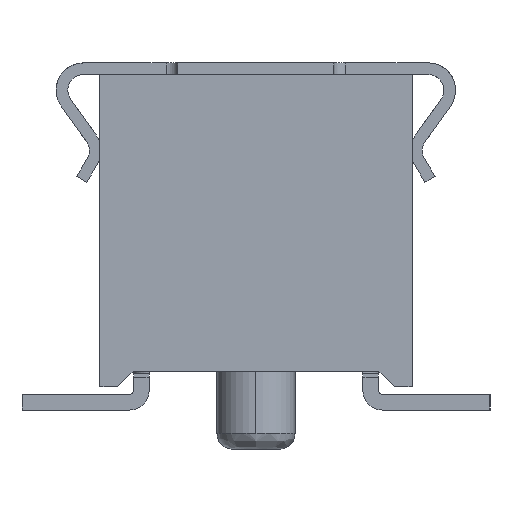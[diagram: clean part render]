
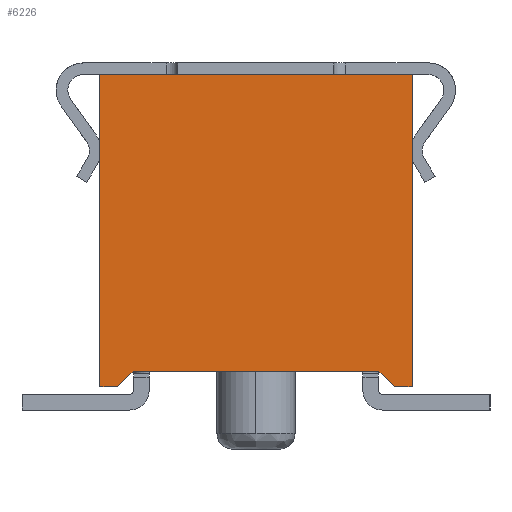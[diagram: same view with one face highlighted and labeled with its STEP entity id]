
A CAD part, left-side view. The second image highlights one B-rep face of the part: STEP entity #6226.
In plain terms, the highlighted planar face has unit normal (-1, 0, 0).
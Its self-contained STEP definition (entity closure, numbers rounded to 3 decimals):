
#12 = EDGE_CURVE ( 'NONE', #3537, #5579, #92, .T. ) ;
#92 = LINE ( 'NONE', #6657, #2454 ) ;
#235 = EDGE_CURVE ( 'NONE', #5579, #5827, #7310, .T. ) ;
#297 = VECTOR ( 'NONE', #6931, 1000. ) ;
#348 = VECTOR ( 'NONE', #8120, 1000. ) ;
#494 = ORIENTED_EDGE ( 'NONE', *, *, #7746, .F. ) ;
#534 = CARTESIAN_POINT ( 'NONE',  ( 0., 0., 0.2 ) ) ;
#714 = LINE ( 'NONE', #5923, #7223 ) ;
#740 = CARTESIAN_POINT ( 'NONE',  ( 0., -1.78, 0. ) ) ;
#920 = CARTESIAN_POINT ( 'NONE',  ( 0., -2., 4. ) ) ;
#1153 = VERTEX_POINT ( 'NONE', #920 ) ;
#1221 = CARTESIAN_POINT ( 'NONE',  ( 0., -1.678, 0.1 ) ) ;
#1392 = ORIENTED_EDGE ( 'NONE', *, *, #6799, .T. ) ;
#1403 = ORIENTED_EDGE ( 'NONE', *, *, #12, .T. ) ;
#1561 = VECTOR ( 'NONE', #3123, 1000. ) ;
#1873 = FACE_OUTER_BOUND ( 'NONE', #3807, .T. ) ;
#1876 = CARTESIAN_POINT ( 'NONE',  ( 0., 1.678, 0.1 ) ) ;
#2237 = ORIENTED_EDGE ( 'NONE', *, *, #3918, .T. ) ;
#2270 = CARTESIAN_POINT ( 'NONE',  ( 0., -1.89, 0. ) ) ;
#2284 = VERTEX_POINT ( 'NONE', #4485 ) ;
#2454 = VECTOR ( 'NONE', #7275, 1000. ) ;
#2599 = VERTEX_POINT ( 'NONE', #6724 ) ;
#2913 = VECTOR ( 'NONE', #6683, 1000. ) ;
#3123 = DIRECTION ( 'NONE',  ( 0., -0.716, -0.698 ) ) ;
#3295 = ORIENTED_EDGE ( 'NONE', *, *, #5369, .T. ) ;
#3303 = DIRECTION ( 'NONE',  ( 0., 0., -1. ) ) ;
#3323 = LINE ( 'NONE', #1221, #1561 ) ;
#3537 = VERTEX_POINT ( 'NONE', #6303 ) ;
#3807 = EDGE_LOOP ( 'NONE', ( #1392, #3295, #2237, #494, #4483, #7505, #1403, #4491 ) ) ;
#3895 = DIRECTION ( 'NONE',  ( 1., 0., 0. ) ) ;
#3918 = EDGE_CURVE ( 'NONE', #5415, #2599, #8046, .T. ) ;
#3956 = CARTESIAN_POINT ( 'NONE',  ( 0., -2., 2. ) ) ;
#4483 = ORIENTED_EDGE ( 'NONE', *, *, #7758, .F. ) ;
#4485 = CARTESIAN_POINT ( 'NONE',  ( 0., -1.575, 0.2 ) ) ;
#4491 = ORIENTED_EDGE ( 'NONE', *, *, #235, .T. ) ;
#4995 = AXIS2_PLACEMENT_3D ( 'NONE', #7083, #3895, #6337 ) ;
#5177 = DIRECTION ( 'NONE',  ( 0., -1., 0. ) ) ;
#5238 = VECTOR ( 'NONE', #3303, 1000. ) ;
#5369 = EDGE_CURVE ( 'NONE', #2284, #5415, #3323, .T. ) ;
#5415 = VERTEX_POINT ( 'NONE', #740 ) ;
#5579 = VERTEX_POINT ( 'NONE', #6577 ) ;
#5608 = CARTESIAN_POINT ( 'NONE',  ( 0., 2., 4. ) ) ;
#5827 = VERTEX_POINT ( 'NONE', #5977 ) ;
#5923 = CARTESIAN_POINT ( 'NONE',  ( 0., 0., 4. ) ) ;
#5977 = CARTESIAN_POINT ( 'NONE',  ( 0., 1.575, 0.2 ) ) ;
#6226 = ADVANCED_FACE ( 'NONE', ( #1873 ), #7638, .F. ) ;
#6303 = CARTESIAN_POINT ( 'NONE',  ( 0., 2., 0. ) ) ;
#6337 = DIRECTION ( 'NONE',  ( 0., 0., -1. ) ) ;
#6577 = CARTESIAN_POINT ( 'NONE',  ( 0., 1.78, 0. ) ) ;
#6657 = CARTESIAN_POINT ( 'NONE',  ( 0., 1.89, 0. ) ) ;
#6683 = DIRECTION ( 'NONE',  ( 0., -1., 0. ) ) ;
#6724 = CARTESIAN_POINT ( 'NONE',  ( 0., -2., 0. ) ) ;
#6799 = EDGE_CURVE ( 'NONE', #5827, #2284, #7433, .T. ) ;
#6931 = DIRECTION ( 'NONE',  ( 0., -0.716, 0.698 ) ) ;
#7083 = CARTESIAN_POINT ( 'NONE',  ( 0., -2., 4. ) ) ;
#7223 = VECTOR ( 'NONE', #5177, 1000. ) ;
#7275 = DIRECTION ( 'NONE',  ( 0., -1., 0. ) ) ;
#7310 = LINE ( 'NONE', #1876, #297 ) ;
#7330 = CARTESIAN_POINT ( 'NONE',  ( 0., 2., 2. ) ) ;
#7407 = LINE ( 'NONE', #7330, #8012 ) ;
#7433 = LINE ( 'NONE', #534, #348 ) ;
#7463 = DIRECTION ( 'NONE',  ( 0., 0., 1. ) ) ;
#7505 = ORIENTED_EDGE ( 'NONE', *, *, #7935, .F. ) ;
#7509 = LINE ( 'NONE', #3956, #5238 ) ;
#7638 = PLANE ( 'NONE',  #4995 ) ;
#7746 = EDGE_CURVE ( 'NONE', #1153, #2599, #7509, .T. ) ;
#7758 = EDGE_CURVE ( 'NONE', #8055, #1153, #714, .T. ) ;
#7935 = EDGE_CURVE ( 'NONE', #3537, #8055, #7407, .T. ) ;
#8012 = VECTOR ( 'NONE', #7463, 1000. ) ;
#8046 = LINE ( 'NONE', #2270, #2913 ) ;
#8055 = VERTEX_POINT ( 'NONE', #5608 ) ;
#8120 = DIRECTION ( 'NONE',  ( 0., -1., 0. ) ) ;
